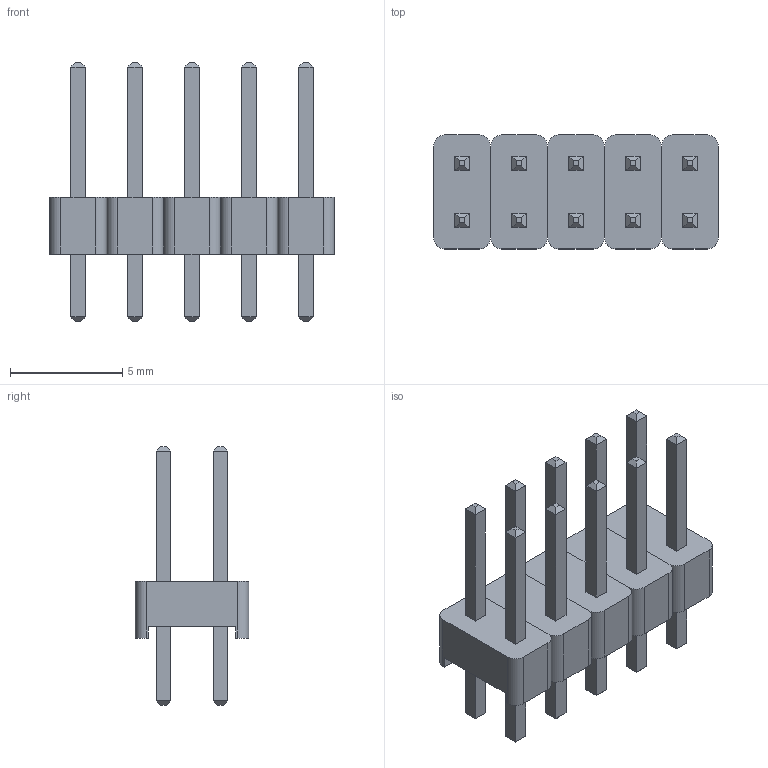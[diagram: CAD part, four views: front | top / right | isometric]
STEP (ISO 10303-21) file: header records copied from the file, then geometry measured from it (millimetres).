
FILE_DESCRIPTION(('FreeCAD Model'),'2;1');
FILE_NAME('Open CASCADE Shape Model','2022-04-06T15:24:02',( 'Engenharia Metaltex'),('Metaltex'), 'Open CASCADE STEP processor 7.5','FreeCAD','Unknown');
FILE_SCHEMA(('AUTOMOTIVE_DESIGN { 1 0 10303 214 1 1 1 1 }'));
Length unit declared in the file: millimetre
Products named in the file (21): BPDC; 1; Base; Pino1; Pino2; 2; Base001; Pino003; Pino004; 3; Base002; Pino006; Pino005; 4; Base003; Pino008; Pino007; 5; Base004; Pino009; Pino010
Assembly tree (20 placements, depth 3):
  BPDC
    1
      Base
      Pino1
      Pino2
    2
      Base001
      Pino003
      Pino004
    3
      Base002
      Pino006
      Pino005
    4
      Base003
      Pino008
      Pino007
    5
      Base004
      Pino009
      Pino010
Bounding box: 12.7 x 5.08 x 11.54 mm (x, y, z)
Volume: 174.6 mm3; surface area: 643.2 mm2
Topology: 15 solids, 15 shells, 250 faces, 580 edges, 360 vertices
Faces by surface type: plane 230, cylinder 20
Entity records: 15019 total; most frequent: CARTESIAN_POINT 2491, DIRECTION 2302, LINE 1660, VECTOR 1660, ORIENTED_EDGE 1160, PCURVE 1160, DEFINITIONAL_REPRESENTATION 1160, EDGE_CURVE 580
